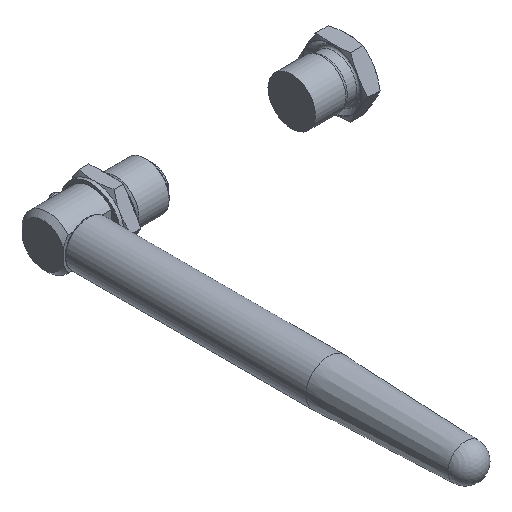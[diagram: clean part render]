
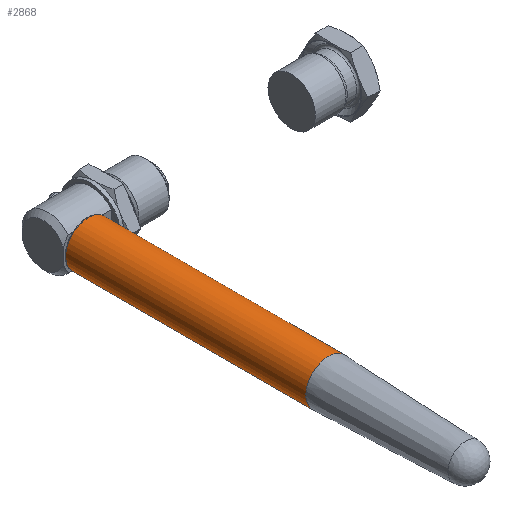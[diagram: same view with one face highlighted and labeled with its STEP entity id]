
A CAD part, isometric view. The second image highlights one B-rep face of the part: STEP entity #2868.
In plain terms, the highlighted cylindrical face has radius 9.5 mm (diameter 19 mm), a full revolution.
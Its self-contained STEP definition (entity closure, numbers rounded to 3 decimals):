
#152=CYLINDRICAL_SURFACE('',#3366,9.5);
#390=CIRCLE('',#3364,9.5);
#391=CIRCLE('',#3365,9.5);
#392=CIRCLE('',#3367,9.5);
#393=CIRCLE('',#3368,9.5);
#394=CIRCLE('',#3369,9.5);
#616=FACE_OUTER_BOUND('',#796,.T.);
#796=EDGE_LOOP('',(#2343,#2344,#2345,#2346,#2347,#2348,#2349));
#917=LINE('',#5201,#1000);
#1000=VECTOR('',#4157,9.5);
#1261=VERTEX_POINT('',#5190);
#1262=VERTEX_POINT('',#5191);
#1263=VERTEX_POINT('',#5196);
#1264=VERTEX_POINT('',#5197);
#1265=VERTEX_POINT('',#5199);
#1644=EDGE_CURVE('',#1261,#1262,#390,.T.);
#1645=EDGE_CURVE('',#1262,#1261,#391,.T.);
#1647=EDGE_CURVE('',#1263,#1264,#392,.T.);
#1648=EDGE_CURVE('',#1265,#1263,#393,.T.);
#1649=EDGE_CURVE('',#1265,#1262,#917,.T.);
#1650=EDGE_CURVE('',#1264,#1265,#394,.T.);
#2343=ORIENTED_EDGE('',*,*,#1647,.F.);
#2344=ORIENTED_EDGE('',*,*,#1648,.F.);
#2345=ORIENTED_EDGE('',*,*,#1649,.T.);
#2346=ORIENTED_EDGE('',*,*,#1645,.T.);
#2347=ORIENTED_EDGE('',*,*,#1644,.T.);
#2348=ORIENTED_EDGE('',*,*,#1649,.F.);
#2349=ORIENTED_EDGE('',*,*,#1650,.F.);
#2868=ADVANCED_FACE('',(#616),#152,.T.);
#3364=AXIS2_PLACEMENT_3D('',#5192,#4146,#4147);
#3365=AXIS2_PLACEMENT_3D('',#5193,#4148,#4149);
#3366=AXIS2_PLACEMENT_3D('',#5195,#4151,#4152);
#3367=AXIS2_PLACEMENT_3D('',#5198,#4153,#4154);
#3368=AXIS2_PLACEMENT_3D('',#5200,#4155,#4156);
#3369=AXIS2_PLACEMENT_3D('',#5202,#4158,#4159);
#4146=DIRECTION('center_axis',(1.,0.,0.));
#4147=DIRECTION('ref_axis',(0.,1.,0.));
#4148=DIRECTION('center_axis',(1.,0.,0.));
#4149=DIRECTION('ref_axis',(0.,1.,0.));
#4151=DIRECTION('center_axis',(1.,0.,0.));
#4152=DIRECTION('ref_axis',(0.,1.,0.));
#4153=DIRECTION('center_axis',(1.,0.,0.));
#4154=DIRECTION('ref_axis',(0.,1.,0.));
#4155=DIRECTION('center_axis',(1.,0.,0.));
#4156=DIRECTION('ref_axis',(0.,1.,0.));
#4157=DIRECTION('',(-1.,0.,0.));
#4158=DIRECTION('center_axis',(1.,0.,0.));
#4159=DIRECTION('ref_axis',(0.,1.,0.));
#5190=CARTESIAN_POINT('',(-25.724,9.494,0.));
#5191=CARTESIAN_POINT('',(-25.724,-9.506,0.));
#5192=CARTESIAN_POINT('Origin',(-25.724,-0.006,
0.));
#5193=CARTESIAN_POINT('Origin',(-25.724,-0.006,
0.));
#5195=CARTESIAN_POINT('Origin',(25.031,-0.006,0.));
#5196=CARTESIAN_POINT('',(75.787,9.494,0.));
#5197=CARTESIAN_POINT('',(75.787,-0.006,9.5));
#5198=CARTESIAN_POINT('Origin',(75.787,-0.006,0.));
#5199=CARTESIAN_POINT('',(75.787,-9.506,0.));
#5200=CARTESIAN_POINT('Origin',(75.787,-0.006,0.));
#5201=CARTESIAN_POINT('',(25.031,-9.506,0.));
#5202=CARTESIAN_POINT('Origin',(75.787,-0.006,0.));
